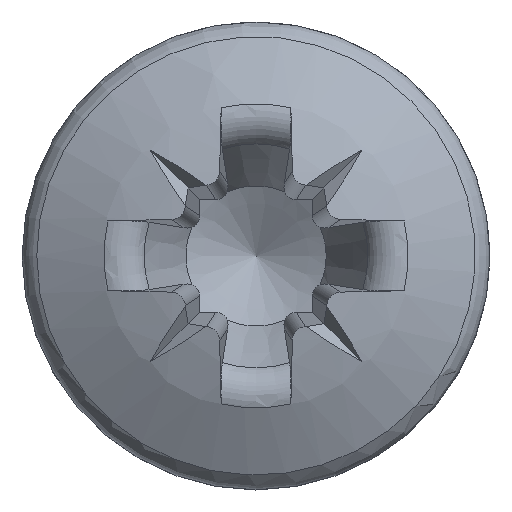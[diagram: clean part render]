
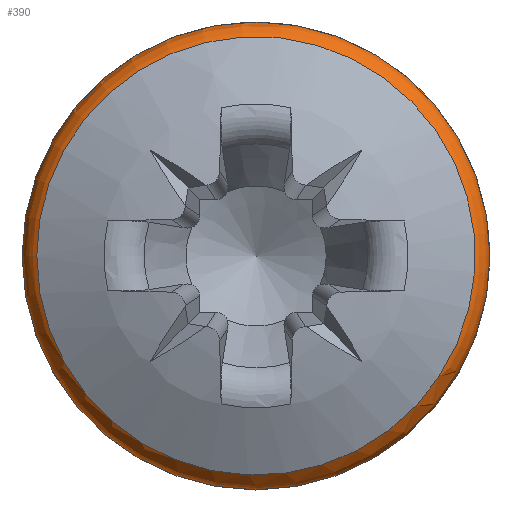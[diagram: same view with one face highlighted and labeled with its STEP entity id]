
A CAD part, top view. The second image highlights one B-rep face of the part: STEP entity #390.
In plain terms, the highlighted toroidal (fillet/blend) face has major radius 1.907 mm and minor radius 0.293 mm.
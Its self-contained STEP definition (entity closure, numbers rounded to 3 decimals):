
#312=TOROIDAL_SURFACE('',#2035,1.907,0.293);
#327=FACE_BOUND('',#633,.T.);
#328=FACE_BOUND('',#634,.T.);
#390=ADVANCED_FACE('',(#327,#328),#312,.T.);
#633=EDGE_LOOP('',(#1053));
#634=EDGE_LOOP('',(#1054));
#708=CIRCLE('',#1945,2.062);
#742=CIRCLE('',#1984,2.2);
#1053=ORIENTED_EDGE('',*,*,#1602,.F.);
#1054=ORIENTED_EDGE('',*,*,#1554,.F.);
#1373=VERTEX_POINT('',#4726);
#1419=VERTEX_POINT('',#5050);
#1554=EDGE_CURVE('',#1373,#1373,#708,.T.);
#1602=EDGE_CURVE('',#1419,#1419,#742,.T.);
#1945=AXIS2_PLACEMENT_3D('',#4725,#2054,#2055);
#1984=AXIS2_PLACEMENT_3D('',#5049,#2132,#2133);
#2035=AXIS2_PLACEMENT_3D('',#5514,#2262,#2263);
#2054=DIRECTION('',(0.,0.,1.));
#2055=DIRECTION('',(-1.,0.,0.));
#2132=DIRECTION('',(0.,0.,-1.));
#2133=DIRECTION('',(-1.,0.,0.));
#2262=DIRECTION('',(0.,0.,-1.));
#2263=DIRECTION('',(-1.,0.,0.));
#4725=CARTESIAN_POINT('',(0.,0.,1.11));
#4726=CARTESIAN_POINT('',(-2.062,0.,1.11));
#5049=CARTESIAN_POINT('',(0.,0.,0.861));
#5050=CARTESIAN_POINT('',(-2.2,0.,0.861));
#5514=CARTESIAN_POINT('',(0.,0.,0.861));
